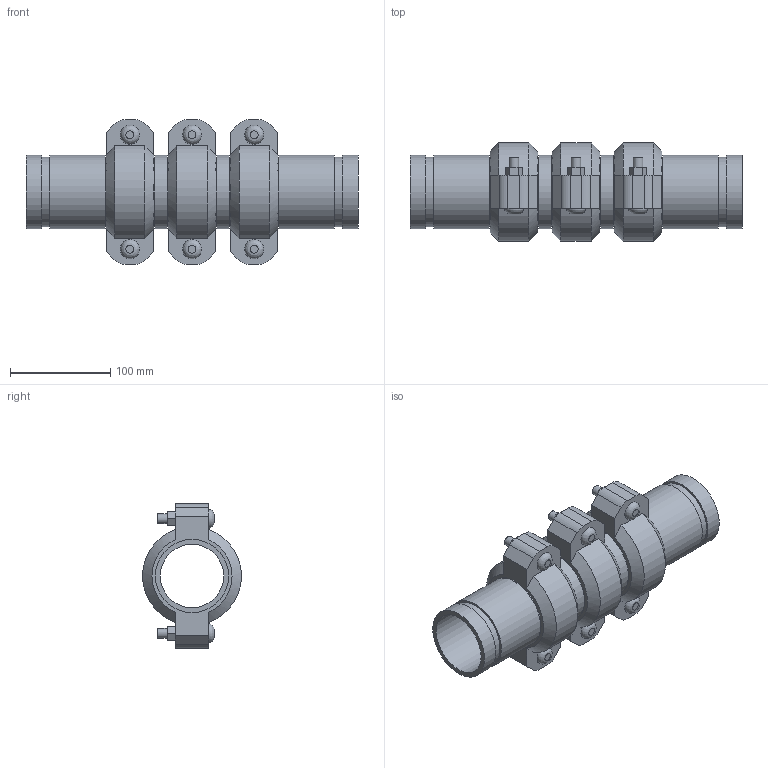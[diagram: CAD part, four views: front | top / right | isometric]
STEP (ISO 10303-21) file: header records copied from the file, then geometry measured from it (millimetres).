
FILE_DESCRIPTION(/* description */ ('VIC SS EXPANSION JOINT 3 COUPLINGS EXPANDED STYLE 155P (OGS) (POTABLE WATER) ','CAx-IF Rec.Pracs.---Representation and Presentation of Product Manufacturing Information (PMI)---4.0---2014-10-13'),/* implementation_level */ '2;1');
FILE_NAME(/* name */ 'C:\Users\kkamble\AppData\Roaming\Autodesk\ApplicationPlugins\Victaulic.Temp\A522\Victaulic_SS_Expansion Joint_Expanded_3 Couplings_Style 155P (OGS)-Potable Water_3 Coup_Expd_2.5 (65).stp',/* time_stamp */ '2021-07-16T16:50:02+05:00',/* author */ ('kkamble'),/* organization */ ('Victaulic'),/* preprocessor_version */ 'ST-DEVELOPER v17.2',/* originating_system */ 'Autodesk Inventor 2019',/* authorisation */ '');
FILE_SCHEMA (('AP242_MANAGED_MODEL_BASED_3D_ENGINEERING_MIM_LF { 1 0 10303 442 1 1 4 }'));
Length unit declared in the file: inch
Products named in the file (4): 155P-02.5; Nipple-02.5; Nipple-02.5_1; 075-02.5
Assembly tree (7 placements, depth 2):
  155P-02.5
    Nipple-02.5  x2
    Nipple-02.5_1  x2
    075-02.5  x3
Bounding box: 331.47 x 98.22 x 144.27 mm (x, y, z)
Volume: 953571 mm3; surface area: 286699.2 mm2
Topology: 7 solids, 13 shells, 219 faces, 519 edges, 366 vertices
Faces by surface type: plane 132, cylinder 69, cone 12, bspline 6
Full cylindrical faces by diameter (mm): 9.525 x12, 11.43 x6, 63.475 x4, 66.675 x3, 69.088 x8, 73.025 x18
Entity records: 2760 total; most frequent: CARTESIAN_POINT 491, DIRECTION 457, ORIENTED_EDGE 386, EDGE_CURVE 193, AXIS2_PLACEMENT_3D 182, VERTEX_POINT 138, EDGE_LOOP 107, LINE 93
